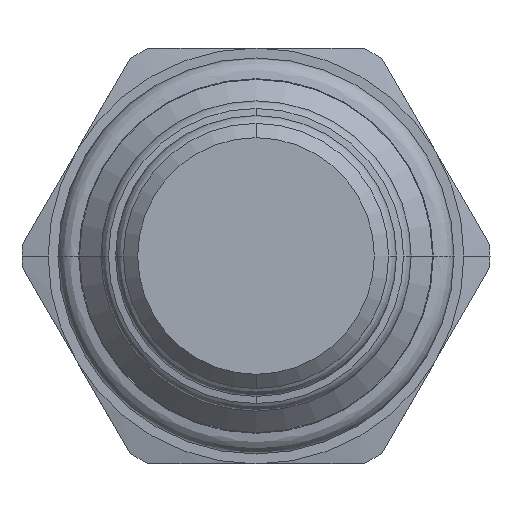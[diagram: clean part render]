
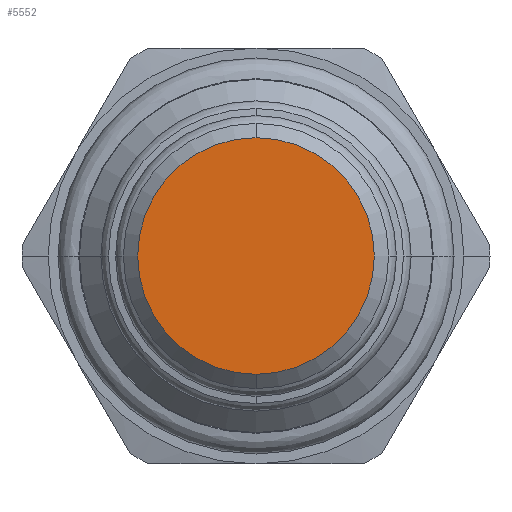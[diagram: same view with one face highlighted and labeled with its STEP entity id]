
A CAD part, front view. The second image highlights one B-rep face of the part: STEP entity #5552.
In plain terms, the highlighted planar face has unit normal (0, -1, 0).
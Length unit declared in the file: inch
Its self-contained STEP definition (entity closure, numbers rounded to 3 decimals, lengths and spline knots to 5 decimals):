
#2187=CARTESIAN_POINT('',(0.,-1.60199,0.));
#2188=DIRECTION('',(0.,-1.,0.));
#2189=DIRECTION('',(0.,0.,-1.));
#2190=AXIS2_PLACEMENT_3D('',#2187,#2188,#2189);
#2205=CARTESIAN_POINT('',(0.,-1.60199,0.));
#2206=DIRECTION('',(0.,-1.,0.));
#2207=DIRECTION('',(0.,0.,1.));
#2208=AXIS2_PLACEMENT_3D('',#2205,#2206,#2207);
#2499=CARTESIAN_POINT('',(0.,-1.60199,0.249));
#2500=CARTESIAN_POINT('',(0.,-1.60199,-0.249));
#2501=VERTEX_POINT('',#2499);
#2502=VERTEX_POINT('',#2500);
#5542=CARTESIAN_POINT('',(0.,-1.60199,0.));
#5543=DIRECTION('',(0.,1.,0.));
#5544=DIRECTION('',(0.,0.,1.));
#5545=AXIS2_PLACEMENT_3D('',#5542,#5543,#5544);
#5546=PLANE('',#5545);
#5547=ORIENTED_EDGE('',*,*,#5532,.F.);
#5549=ORIENTED_EDGE('',*,*,#5548,.F.);
#5550=EDGE_LOOP('',(#5547,#5549));
#5551=FACE_OUTER_BOUND('',#5550,.F.);
#5552=ADVANCED_FACE('',(#5551),#5546,.F.);
#2191=CIRCLE('',#2190,0.249);
#2209=CIRCLE('',#2208,0.249);
#5532=EDGE_CURVE('',#2502,#2501,#2191,.T.);
#5548=EDGE_CURVE('',#2501,#2502,#2209,.T.);
